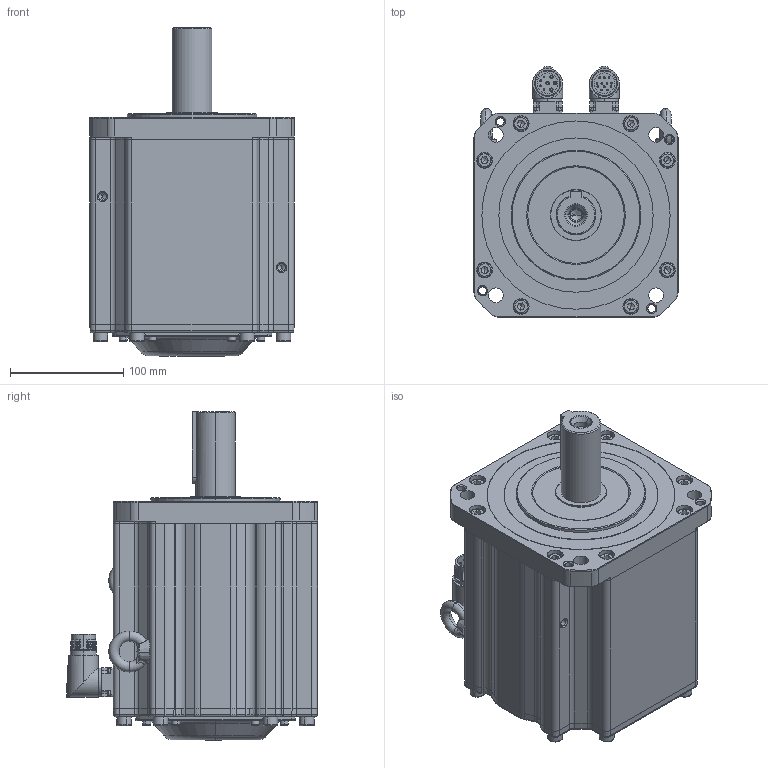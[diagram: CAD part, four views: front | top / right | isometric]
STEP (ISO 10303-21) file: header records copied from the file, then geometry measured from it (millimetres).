
FILE_DESCRIPTION (( 'STEP AP203' ), '1' );
FILE_NAME ('MC20-180-3M20-N502-0¡õPK-NNNN.STEP', '2025-05-05T03:30:02', ( '' ), ( '' ), 'SwSTEP 2.0', 'SolidWorks 2014', '' );
FILE_SCHEMA (( 'CONFIG_CONTROL_DESIGN' ));
Products named in the file (1): MC20-180-3M20-N502-0¡õPK-NNNN
Bounding box: 180 x 221.35 x 289.95 mm (x, y, z)
Volume: 4061567.2 mm3; surface area: 531997.7 mm2
Topology: 40 solids, 42 shells, 2190 faces, 5098 edges, 3031 vertices
Faces by surface type: plane 883, cylinder 569, cone 483, torus 208, bspline 47
Entity records: 63884 total; most frequent: CARTESIAN_POINT 13740, DIRECTION 11030, ORIENTED_EDGE 9944, EDGE_CURVE 4972, AXIS2_PLACEMENT_3D 4270, VERTEX_POINT 3031, VECTOR 2490, LINE 2490
